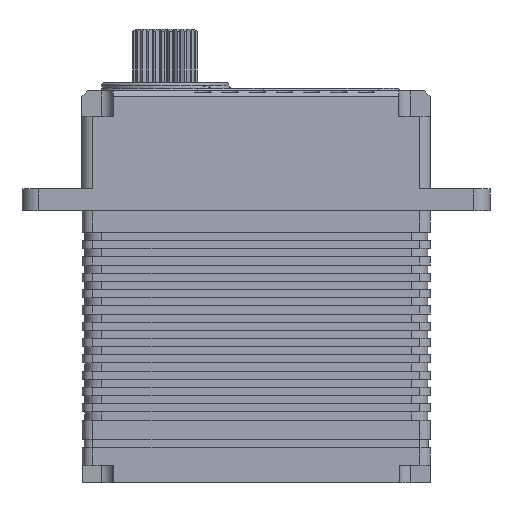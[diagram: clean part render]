
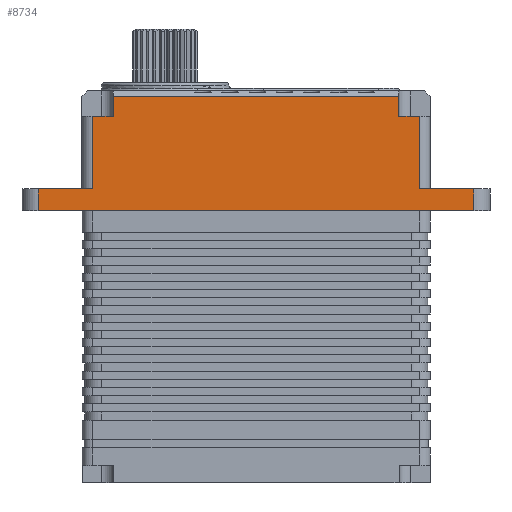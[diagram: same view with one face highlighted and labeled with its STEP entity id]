
A CAD part, front view. The second image highlights one B-rep face of the part: STEP entity #8734.
In plain terms, the highlighted planar face has unit normal (0, -1, 0).
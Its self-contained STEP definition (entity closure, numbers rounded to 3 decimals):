
#6 = VERTEX_POINT ( 'NONE', #27169 ) ;
#53 = VERTEX_POINT ( 'NONE', #18491 ) ;
#238 = EDGE_CURVE ( 'NONE', #5840, #53, #4400, .T. ) ;
#293 = LINE ( 'NONE', #9296, #17368 ) ;
#462 = VERTEX_POINT ( 'NONE', #23489 ) ;
#810 = DIRECTION ( 'NONE',  ( -1., 0., 0. ) ) ;
#999 = DIRECTION ( 'NONE',  ( 0., 0., -1. ) ) ;
#1258 = LINE ( 'NONE', #6739, #5427 ) ;
#1316 = LINE ( 'NONE', #18344, #24339 ) ;
#1863 = ORIENTED_EDGE ( 'NONE', *, *, #18306, .F. ) ;
#2027 = EDGE_CURVE ( 'NONE', #25180, #22855, #293, .T. ) ;
#2103 = CARTESIAN_POINT ( 'NONE',  ( -111.032, -19.66, 16.975 ) ) ;
#2630 = FACE_OUTER_BOUND ( 'NONE', #12239, .T. ) ;
#2832 = VERTEX_POINT ( 'NONE', #23428 ) ;
#3213 = ORIENTED_EDGE ( 'NONE', *, *, #18078, .F. ) ;
#3566 = ORIENTED_EDGE ( 'NONE', *, *, #15011, .F. ) ;
#3580 = CARTESIAN_POINT ( 'NONE',  ( -44.782, -19.66, 34.675 ) ) ;
#4264 = VERTEX_POINT ( 'NONE', #24844 ) ;
#4400 = LINE ( 'NONE', #19907, #8528 ) ;
#4736 = CARTESIAN_POINT ( 'NONE',  ( -41.032, -19.66, 21.375 ) ) ;
#4840 = LINE ( 'NONE', #5362, #28942 ) ;
#5336 = LINE ( 'NONE', #12697, #22796 ) ;
#5362 = CARTESIAN_POINT ( 'NONE',  ( -71.032, -19.66, 17.375 ) ) ;
#5427 = VECTOR ( 'NONE', #19947, 1000. ) ;
#5763 = CARTESIAN_POINT ( 'NONE',  ( -41.032, -19.66, 34.675 ) ) ;
#5840 = VERTEX_POINT ( 'NONE', #7949 ) ;
#6238 = VERTEX_POINT ( 'NONE', #10079 ) ;
#6389 = EDGE_CURVE ( 'NONE', #462, #6238, #5336, .T. ) ;
#6739 = CARTESIAN_POINT ( 'NONE',  ( -101.032, -19.66, 16.975 ) ) ;
#6885 = DIRECTION ( 'NONE',  ( 0., 0., -1. ) ) ;
#6917 = VERTEX_POINT ( 'NONE', #21468 ) ;
#7949 = CARTESIAN_POINT ( 'NONE',  ( -97.282, -19.66, 34.675 ) ) ;
#7999 = VECTOR ( 'NONE', #24615, 1000. ) ;
#8209 = EDGE_CURVE ( 'NONE', #2832, #6917, #12365, .T. ) ;
#8528 = VECTOR ( 'NONE', #20001, 1000. ) ;
#8734 = ADVANCED_FACE ( 'NONE', ( #2630 ), #24157, .F. ) ;
#9296 = CARTESIAN_POINT ( 'NONE',  ( -44.782, -19.66, 16.975 ) ) ;
#9918 = VECTOR ( 'NONE', #999, 1000. ) ;
#10079 = CARTESIAN_POINT ( 'NONE',  ( -101.032, -19.66, 21.375 ) ) ;
#10575 = DIRECTION ( 'NONE',  ( 0., 1., 0. ) ) ;
#10751 = DIRECTION ( 'NONE',  ( 0., 0., 1. ) ) ;
#11010 = CARTESIAN_POINT ( 'NONE',  ( -44.782, -19.66, 38.375 ) ) ;
#11679 = DIRECTION ( 'NONE',  ( 1., 0., 0. ) ) ;
#12123 = DIRECTION ( 'NONE',  ( 1., 0., 0. ) ) ;
#12239 = EDGE_LOOP ( 'NONE', ( #21900, #22330, #12592, #3213, #19468, #19691, #14632, #3566, #28382, #1863, #17587, #22711 ) ) ;
#12365 = LINE ( 'NONE', #4736, #13450 ) ;
#12592 = ORIENTED_EDGE ( 'NONE', *, *, #24322, .F. ) ;
#12697 = CARTESIAN_POINT ( 'NONE',  ( -101.032, -19.66, 21.375 ) ) ;
#13450 = VECTOR ( 'NONE', #24637, 1000. ) ;
#14122 = LINE ( 'NONE', #27718, #9918 ) ;
#14467 = VERTEX_POINT ( 'NONE', #15020 ) ;
#14587 = VECTOR ( 'NONE', #24486, 1000. ) ;
#14632 = ORIENTED_EDGE ( 'NONE', *, *, #23746, .F. ) ;
#14801 = VERTEX_POINT ( 'NONE', #27512 ) ;
#14931 = LINE ( 'NONE', #21924, #14587 ) ;
#15011 = EDGE_CURVE ( 'NONE', #6917, #14801, #14931, .T. ) ;
#15020 = CARTESIAN_POINT ( 'NONE',  ( -41.032, -19.66, 34.675 ) ) ;
#17368 = VECTOR ( 'NONE', #6885, 1000. ) ;
#17587 = ORIENTED_EDGE ( 'NONE', *, *, #17804, .F. ) ;
#17804 = EDGE_CURVE ( 'NONE', #22855, #14467, #26843, .T. ) ;
#18078 = EDGE_CURVE ( 'NONE', #6238, #6, #1258, .T. ) ;
#18306 = EDGE_CURVE ( 'NONE', #14467, #2832, #14122, .T. ) ;
#18344 = CARTESIAN_POINT ( 'NONE',  ( -41.032, -19.66, 34.675 ) ) ;
#18491 = CARTESIAN_POINT ( 'NONE',  ( -97.282, -19.66, 38.375 ) ) ;
#19468 = ORIENTED_EDGE ( 'NONE', *, *, #6389, .F. ) ;
#19691 = ORIENTED_EDGE ( 'NONE', *, *, #21864, .F. ) ;
#19862 = EDGE_CURVE ( 'NONE', #53, #25180, #24425, .T. ) ;
#19907 = CARTESIAN_POINT ( 'NONE',  ( -97.282, -19.66, 16.975 ) ) ;
#19947 = DIRECTION ( 'NONE',  ( 0., 0., 1. ) ) ;
#20001 = DIRECTION ( 'NONE',  ( 0., 0., 1. ) ) ;
#20141 = DIRECTION ( 'NONE',  ( 0., 0., 1. ) ) ;
#21468 = CARTESIAN_POINT ( 'NONE',  ( -31.032, -19.66, 21.375 ) ) ;
#21617 = DIRECTION ( 'NONE',  ( 1., 0., 0. ) ) ;
#21864 = EDGE_CURVE ( 'NONE', #4264, #462, #26345, .T. ) ;
#21900 = ORIENTED_EDGE ( 'NONE', *, *, #19862, .F. ) ;
#21924 = CARTESIAN_POINT ( 'NONE',  ( -31.032, -19.66, 20.375 ) ) ;
#22330 = ORIENTED_EDGE ( 'NONE', *, *, #238, .F. ) ;
#22389 = CARTESIAN_POINT ( 'NONE',  ( -41.032, -19.66, 38.375 ) ) ;
#22711 = ORIENTED_EDGE ( 'NONE', *, *, #2027, .F. ) ;
#22796 = VECTOR ( 'NONE', #21617, 1000. ) ;
#22855 = VERTEX_POINT ( 'NONE', #3580 ) ;
#23181 = AXIS2_PLACEMENT_3D ( 'NONE', #26488, #10575, #10751 ) ;
#23428 = CARTESIAN_POINT ( 'NONE',  ( -41.032, -19.66, 21.375 ) ) ;
#23489 = CARTESIAN_POINT ( 'NONE',  ( -111.032, -19.66, 21.375 ) ) ;
#23746 = EDGE_CURVE ( 'NONE', #14801, #4264, #4840, .T. ) ;
#24049 = VECTOR ( 'NONE', #12123, 1000. ) ;
#24157 = PLANE ( 'NONE',  #23181 ) ;
#24322 = EDGE_CURVE ( 'NONE', #6, #5840, #1316, .T. ) ;
#24339 = VECTOR ( 'NONE', #11679, 1000. ) ;
#24425 = LINE ( 'NONE', #22389, #7999 ) ;
#24486 = DIRECTION ( 'NONE',  ( 0., 0., -1. ) ) ;
#24615 = DIRECTION ( 'NONE',  ( 1., 0., 0. ) ) ;
#24637 = DIRECTION ( 'NONE',  ( 1., 0., 0. ) ) ;
#24844 = CARTESIAN_POINT ( 'NONE',  ( -111.032, -19.66, 17.375 ) ) ;
#24952 = VECTOR ( 'NONE', #20141, 1000. ) ;
#25180 = VERTEX_POINT ( 'NONE', #11010 ) ;
#26345 = LINE ( 'NONE', #2103, #24952 ) ;
#26488 = CARTESIAN_POINT ( 'NONE',  ( -41.032, -19.66, 16.975 ) ) ;
#26843 = LINE ( 'NONE', #5763, #24049 ) ;
#27169 = CARTESIAN_POINT ( 'NONE',  ( -101.032, -19.66, 34.675 ) ) ;
#27512 = CARTESIAN_POINT ( 'NONE',  ( -31.032, -19.66, 17.375 ) ) ;
#27718 = CARTESIAN_POINT ( 'NONE',  ( -41.032, -19.66, 16.975 ) ) ;
#28382 = ORIENTED_EDGE ( 'NONE', *, *, #8209, .F. ) ;
#28942 = VECTOR ( 'NONE', #810, 1000. ) ;
